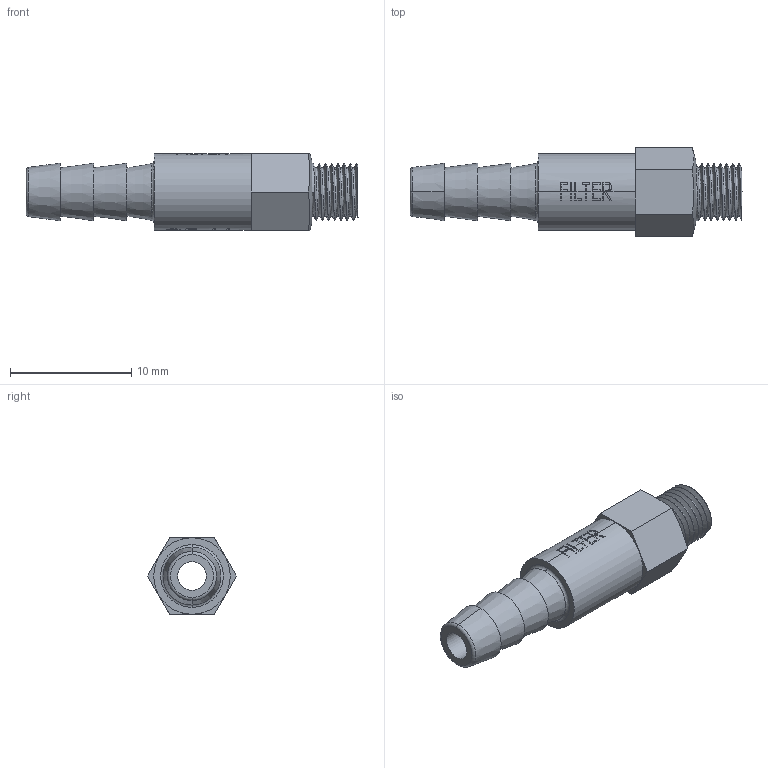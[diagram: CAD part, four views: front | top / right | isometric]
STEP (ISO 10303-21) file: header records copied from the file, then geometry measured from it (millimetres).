
FILE_DESCRIPTION(/* description */ ('SolidWorks IGES file using NURBS representation for surfaces '),/* implementation_level */ '2;1');
FILE_NAME(/* name */ 'K:\Normteile INVENTOR\Air-Logic\Filters\F-960-25-B85.IGS.ipt.stp',/* time_stamp */ '2020-05-27T10:39:56+02:00',/* author */ ('amarsh'),/* organization */ (''),/* preprocessor_version */ 'ST-DEVELOPER v18',/* originating_system */ 'Autodesk Inventor 2020',/* authorisation */ '');
FILE_SCHEMA (('AUTOMOTIVE_DESIGN { 1 0 10303 214 3 1 1 }'));
Length unit declared in the file: millimetre
Products named in the file (1): F-960-25-B85.IGS
Bounding box: 27.38 x 7.33 x 6.35 mm (x, y, z)
Volume: 515.8 mm3; surface area: 784.3 mm2
Topology: 1 solids, 1 shells, 154 faces, 438 edges, 293 vertices
Faces by surface type: plane 71, bspline 43, cylinder 30, cone 6, torus 4
Full cylindrical faces by diameter (mm): 2.36 x1, 4.75 x7
Entity records: 9730 total; most frequent: CARTESIAN_POINT 5898, ORIENTED_EDGE 876, DIRECTION 671, EDGE_CURVE 438, VERTEX_POINT 293, AXIS2_PLACEMENT_3D 231, LINE 209, VECTOR 209
